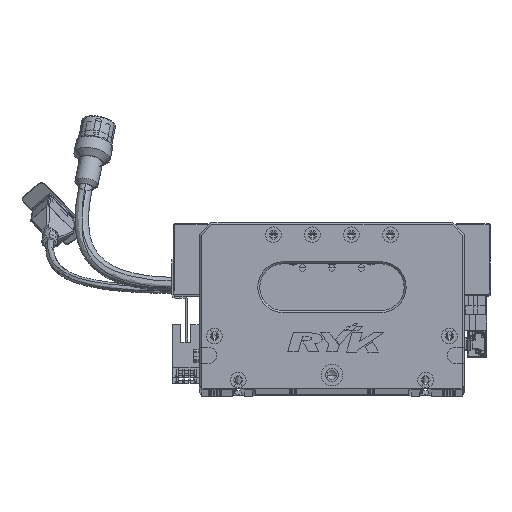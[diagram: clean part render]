
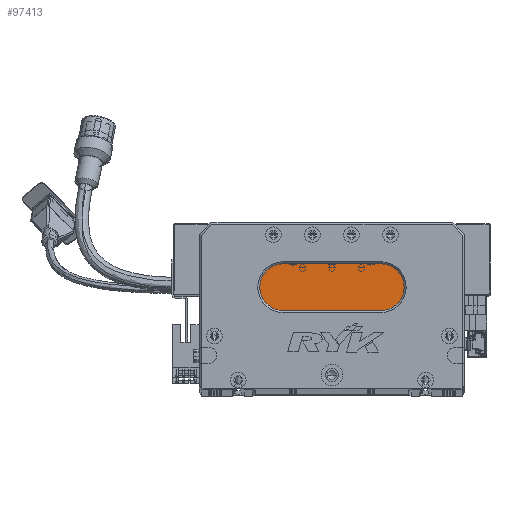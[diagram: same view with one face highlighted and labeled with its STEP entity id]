
A CAD part, top view. The second image highlights one B-rep face of the part: STEP entity #97413.
In plain terms, the highlighted planar face has unit normal (0, 0, 1) as drawn and (0, 0, -1) by its records, which use the part's own axes.
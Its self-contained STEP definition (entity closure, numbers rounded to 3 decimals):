
#357 = EDGE_CURVE ( 'NONE', #1426, #45425, #80021, .T. ) ;
#1277 = CARTESIAN_POINT ( 'NONE',  ( 93., 40., 13. ) ) ;
#1426 = VERTEX_POINT ( 'NONE', #13903 ) ;
#1999 = CARTESIAN_POINT ( 'NONE',  ( 93., 52., 13. ) ) ;
#2354 = DIRECTION ( 'NONE',  ( 0., 0., -1. ) ) ;
#2792 = EDGE_CURVE ( 'NONE', #45425, #50823, #75300, .T. ) ;
#4092 = CARTESIAN_POINT ( 'NONE',  ( 31., 52., 13. ) ) ;
#6271 = AXIS2_PLACEMENT_3D ( 'NONE', #39608, #14168, #30872 ) ;
#7067 = EDGE_LOOP ( 'NONE', ( #49653, #7925, #85462, #31346, #56858 ) ) ;
#7925 = ORIENTED_EDGE ( 'NONE', *, *, #50531, .T. ) ;
#9566 = DIRECTION ( 'NONE',  ( -1., 0., 0. ) ) ;
#10718 = LINE ( 'NONE', #1277, #111156 ) ;
#13903 = CARTESIAN_POINT ( 'NONE',  ( 43., 40., 13. ) ) ;
#14168 = DIRECTION ( 'NONE',  ( 0., 0., -1. ) ) ;
#15856 = VERTEX_POINT ( 'NONE', #34580 ) ;
#16580 = VECTOR ( 'NONE', #90453, 1000. ) ;
#17921 = PLANE ( 'NONE',  #90712 ) ;
#18500 = DIRECTION ( 'NONE',  ( -1., 0., 0. ) ) ;
#19427 = DIRECTION ( 'NONE',  ( -1., 0., 0. ) ) ;
#27120 = CIRCLE ( 'NONE', #94867, 12. ) ;
#29204 = FACE_OUTER_BOUND ( 'NONE', #7067, .T. ) ;
#30872 = DIRECTION ( 'NONE',  ( -1., 0., 0. ) ) ;
#31346 = ORIENTED_EDGE ( 'NONE', *, *, #2792, .T. ) ;
#34580 = CARTESIAN_POINT ( 'NONE',  ( 93., 64., 13. ) ) ;
#39608 = CARTESIAN_POINT ( 'NONE',  ( 43., 52., 13. ) ) ;
#45425 = VERTEX_POINT ( 'NONE', #4092 ) ;
#48199 = CARTESIAN_POINT ( 'NONE',  ( 43., 64., 13. ) ) ;
#49653 = ORIENTED_EDGE ( 'NONE', *, *, #85045, .T. ) ;
#50531 = EDGE_CURVE ( 'NONE', #102155, #1426, #10718, .T. ) ;
#50823 = VERTEX_POINT ( 'NONE', #48199 ) ;
#53033 = DIRECTION ( 'NONE',  ( 0., 0., -1. ) ) ;
#56858 = ORIENTED_EDGE ( 'NONE', *, *, #89276, .T. ) ;
#66066 = AXIS2_PLACEMENT_3D ( 'NONE', #90140, #72325, #73449 ) ;
#72325 = DIRECTION ( 'NONE',  ( 0., 0., -1. ) ) ;
#73449 = DIRECTION ( 'NONE',  ( -1., 0., 0. ) ) ;
#75300 = CIRCLE ( 'NONE', #66066, 12. ) ;
#80021 = CIRCLE ( 'NONE', #6271, 12. ) ;
#81781 = CARTESIAN_POINT ( 'NONE',  ( 93., 64., 13. ) ) ;
#85045 = EDGE_CURVE ( 'NONE', #15856, #102155, #27120, .T. ) ;
#85462 = ORIENTED_EDGE ( 'NONE', *, *, #357, .T. ) ;
#88897 = CARTESIAN_POINT ( 'NONE',  ( 93., 40., 13. ) ) ;
#89276 = EDGE_CURVE ( 'NONE', #50823, #15856, #95215, .T. ) ;
#90140 = CARTESIAN_POINT ( 'NONE',  ( 43., 52., 13. ) ) ;
#90453 = DIRECTION ( 'NONE',  ( 1., 0., 0. ) ) ;
#90712 = AXIS2_PLACEMENT_3D ( 'NONE', #1999, #2354, #19427 ) ;
#94867 = AXIS2_PLACEMENT_3D ( 'NONE', #96202, #53033, #18500 ) ;
#95215 = LINE ( 'NONE', #81781, #16580 ) ;
#96202 = CARTESIAN_POINT ( 'NONE',  ( 93., 52., 13. ) ) ;
#97413 = ADVANCED_FACE ( 'NONE', ( #29204 ), #17921, .T. ) ;
#102155 = VERTEX_POINT ( 'NONE', #88897 ) ;
#111156 = VECTOR ( 'NONE', #9566, 1000. ) ;
